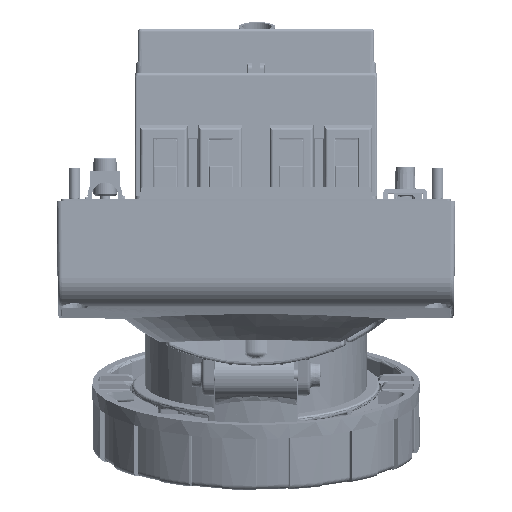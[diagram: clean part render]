
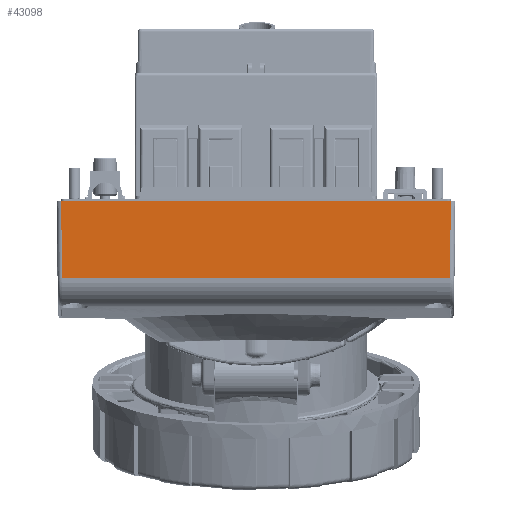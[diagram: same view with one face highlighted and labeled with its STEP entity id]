
A CAD part, top view. The second image highlights one B-rep face of the part: STEP entity #43098.
In plain terms, the highlighted planar face has unit normal (0, -0.009, 1).
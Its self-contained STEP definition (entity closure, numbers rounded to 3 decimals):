
#16521=LINE('',#320437,#29908);
#16527=LINE('',#320460,#29914);
#16532=LINE('',#320476,#29919);
#16534=LINE('',#320485,#29921);
#29908=VECTOR('',#200747,1.);
#29914=VECTOR('',#200767,1.);
#29919=VECTOR('',#200782,1.);
#29921=VECTOR('',#200796,1.);
#43098=ADVANCED_FACE('',(#57379),#51432,.T.);
#51432=PLANE('',#176423);
#57379=FACE_OUTER_BOUND('',#66942,.T.);
#66942=EDGE_LOOP('',(#87976,#87977,#87978,#87979));
#87976=ORIENTED_EDGE('',*,*,#147109,.F.);
#87977=ORIENTED_EDGE('',*,*,#147114,.F.);
#87978=ORIENTED_EDGE('',*,*,#147101,.T.);
#87979=ORIENTED_EDGE('',*,*,#147090,.T.);
#128884=VERTEX_POINT('',#320438);
#128885=VERTEX_POINT('',#320439);
#128894=VERTEX_POINT('',#320461);
#128899=VERTEX_POINT('',#320475);
#147090=EDGE_CURVE('',#128884,#128885,#16521,.T.);
#147101=EDGE_CURVE('',#128894,#128884,#16527,.T.);
#147109=EDGE_CURVE('',#128899,#128885,#16532,.T.);
#147114=EDGE_CURVE('',#128894,#128899,#16534,.T.);
#176423=AXIS2_PLACEMENT_3D('',#320486,#200797,#200798);
#200747=DIRECTION('',(-1.,0.,0.));
#200767=DIRECTION('',(0.009,1.,0.009));
#200782=DIRECTION('',(-0.009,1.,0.009));
#200796=DIRECTION('',(-1.,0.,0.));
#200797=DIRECTION('',(0.,-0.009,1.));
#200798=DIRECTION('',(0.,-1.,-0.009));
#320437=CARTESIAN_POINT('',(180.75,35.165,137.5));
#320438=CARTESIAN_POINT('',(180.75,35.165,137.5));
#320439=CARTESIAN_POINT('',(47.75,35.165,137.5));
#320460=CARTESIAN_POINT('',(180.522,8.993,137.272));
#320461=CARTESIAN_POINT('',(180.522,8.993,137.272));
#320475=CARTESIAN_POINT('',(47.978,8.993,137.272));
#320476=CARTESIAN_POINT('',(47.978,8.993,137.272));
#320485=CARTESIAN_POINT('',(180.522,8.993,137.272));
#320486=CARTESIAN_POINT('',(182.25,0.166,137.195));
